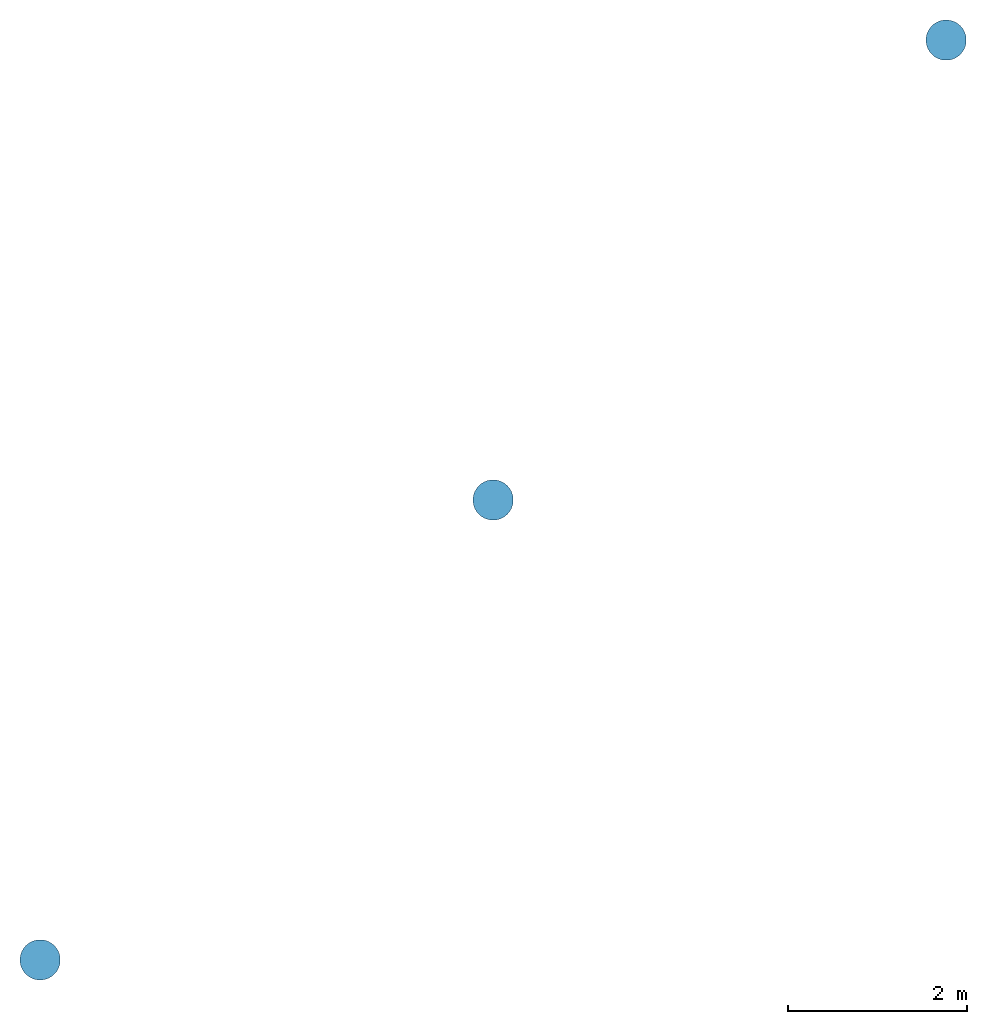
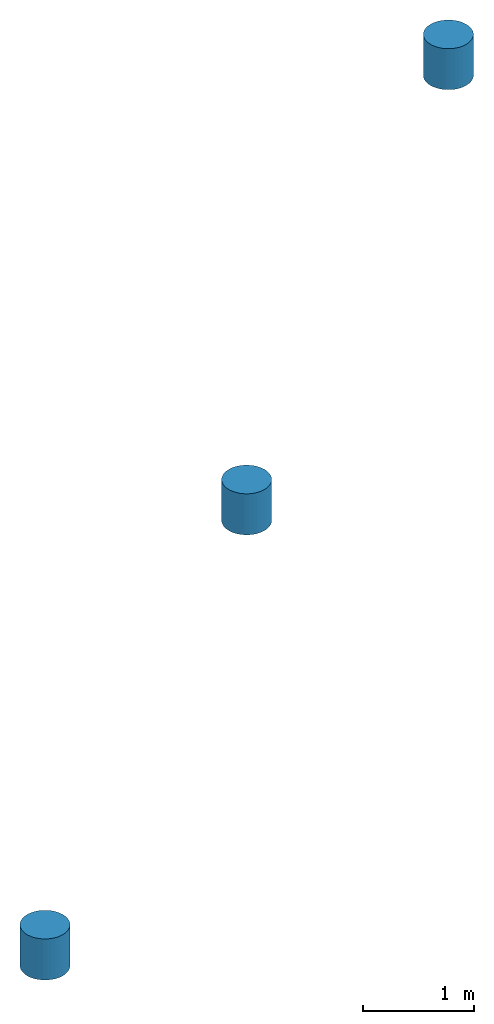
# One storey: 3 columns.
"""IFC2X3 building model written with IfcOpenShell, lengths in millimetres."""

from ifc_helpers import new_model, entity, si_unit, converted_unit, derived_unit, direction, frame, origin, origin_with_axes, place, context, subcontext, project, spatial, faceted_brep, material, type_object, element, save


model = new_model("IFC2X3")

# Units and contexts
model_context = context("Model", 3, precision=0.01, world=origin(), true_north=direction((6.12323399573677e-17, 1.0)))
plan_context = context("Plan", 3, precision=1e-05, world=origin_with_axes())
body_context = subcontext(model_context, "Body", "Model", "MODEL_VIEW")
ifc_project = project(units=[converted_unit("PLANEANGLEUNIT", "DEGREE", entity("IfcPositiveLengthMeasure", 0.0174532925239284), si_unit("PLANEANGLEUNIT", "RADIAN"), dimensions=[0, 0, 0, 0, 0, 0, 0]), si_unit("AREAUNIT", "SQUARE_METRE"), si_unit("LENGTHUNIT", "METRE", prefix="MILLI"), si_unit("MASSUNIT", "GRAM", prefix="KILO"), si_unit("POWERUNIT", "WATT"), si_unit("PRESSUREUNIT", "PASCAL", prefix="KILO"), si_unit("FORCEUNIT", "NEWTON", prefix="KILO"), si_unit("ELECTRICVOLTAGEUNIT", "VOLT"), si_unit("ELECTRICCURRENTUNIT", "AMPERE"), si_unit("THERMODYNAMICTEMPERATUREUNIT", "DEGREE_CELSIUS"), si_unit("TIMEUNIT", "SECOND"), si_unit("VOLUMEUNIT", "CUBIC_METRE"), derived_unit("LINEARVELOCITYUNIT", [(si_unit("LENGTHUNIT", "METRE"), 1), (si_unit("TIMEUNIT", "SECOND"), -1)]), derived_unit("VOLUMETRICFLOWRATEUNIT", [(si_unit("VOLUMEUNIT", "CUBIC_METRE"), 1), (si_unit("TIMEUNIT", "SECOND"), -1)]), derived_unit("THERMALTRANSMITTANCEUNIT", [(si_unit("POWERUNIT", "WATT"), 1), (si_unit("THERMODYNAMICTEMPERATUREUNIT", "KELVIN"), -1), (si_unit("AREAUNIT", "SQUARE_METRE"), -1)]), derived_unit("SOUNDPRESSUREUNIT", [(si_unit("PRESSUREUNIT", "PASCAL"), 1)])], contexts=[model_context, plan_context])

# Site, building, storey
site_placement = place(None, frame((0.0, -2.21771188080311e-09, 0.0), z_axis=(0.0, 0.0, 1.0), x_axis=(0.266093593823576, -0.963947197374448, 0.0)))
site = spatial("IfcSite", under=ifc_project, at=site_placement, Name="ENZV", CompositionType="ELEMENT")
building_placement = place(site_placement, origin_with_axes())
building = spatial("IfcBuilding", under=site, at=building_placement, Name="ZV001", CompositionType="ELEMENT")
storey_placement = place(building_placement, frame((0.0, 0.0, 5100.0), z_axis=(0.0, 0.0, 1.0), x_axis=(1.0, 0.0, 0.0)))
storey = spatial("IfcBuildingStorey", under=building, at=storey_placement, Name="H01", CompositionType="ELEMENT", Elevation=5100.0)

# Columns
ifc_material = material(Name="Betong Plasstøpt - B35")
column_type = type_object("IfcColumnType", Name="Søyle Betong Sirkulær:450", PredefinedType="COLUMN", material=ifc_material)
column_1_placement = place(storey_placement, frame((-53196.0165703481, 303156.456381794, -5100.0), z_axis=(0.0, 0.0, 1.0), x_axis=(1.0, 0.0, 0.0)))
element("IfcColumn", 1, at=column_1_placement, inside=storey, type_object=column_type, Name="Søyle Betong Sirkulær:450", ObjectType="Søyle Betong Sirkulær:450", context=body_context, shape_type="Brep", body=[
    faceted_brep([(224.999999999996, -4.08858901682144e-13, 8300.0), (221.581744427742, -39.070839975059, 8300.0), (221.581744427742, -39.070839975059, 8750.0), (224.999999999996, -4.08858901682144e-13, 8750.0), (221.581744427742, 39.0708399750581, 8300.0), (221.581744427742, 39.0708399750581, 8750.0), (211.430839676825, 76.9545322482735, 8300.0), (211.430839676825, 76.9545322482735, 8750.0), (194.855715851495, 112.499999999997, 8300.0), (194.855715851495, 112.499999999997, 8750.0), (172.359999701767, 144.627212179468, 8300.0), (172.359999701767, 144.627212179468, 8750.0), (144.627212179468, 172.359999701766, 8300.0), (144.627212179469, 172.359999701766, 8750.0), (112.499999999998, 194.855715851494, 8300.0), (112.499999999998, 194.855715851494, 8750.0), (76.9545322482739, 211.430839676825, 8300.0), (76.9545322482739, 211.430839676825, 8750.0), (39.0708399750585, 221.581744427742, 8300.0), (39.0708399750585, 221.581744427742, 8750.0), (-1.24380947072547e-14, 224.999999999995, 8300.0), (-1.24380947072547e-14, 224.999999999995, 8750.0), (-39.0708399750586, 221.581744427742, 8300.0), (-39.0708399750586, 221.581744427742, 8750.0), (-76.954532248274, 211.430839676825, 8300.0), (-76.954532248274, 211.430839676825, 8750.0), (-112.499999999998, 194.855715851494, 8300.0), (-112.499999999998, 194.855715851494, 8750.0), (-144.627212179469, 172.359999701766, 8300.0), (-144.627212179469, 172.359999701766, 8750.0), (-172.359999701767, 144.627212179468, 8300.0), (-172.359999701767, 144.627212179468, 8750.0), (-194.855715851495, 112.499999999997, 8300.0), (-194.855715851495, 112.499999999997, 8750.0), (-211.430839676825, 76.9545322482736, 8300.0), (-211.430839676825, 76.9545322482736, 8750.0), (-221.581744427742, 39.0708399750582, 8300.0), (-221.581744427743, 39.0708399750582, 8750.0), (-224.999999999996, -3.81304348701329e-13, 8300.0), (-224.999999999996, -3.81304348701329e-13, 8750.0), (-221.581744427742, -39.0708399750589, 8300.0), (-221.581744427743, -39.0708399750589, 8750.0), (-211.430839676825, -76.9545322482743, 8300.0), (-211.430839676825, -76.9545322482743, 8750.0), (-194.855715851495, -112.499999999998, 8300.0), (-194.855715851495, -112.499999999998, 8750.0), (-172.359999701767, -144.627212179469, 8300.0), (-172.359999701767, -144.627212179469, 8750.0), (-144.627212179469, -172.359999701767, 8300.0), (-144.627212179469, -172.359999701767, 8750.0), (-112.499999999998, -194.855715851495, 8300.0), (-112.499999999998, -194.855715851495, 8750.0), (-76.9545322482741, -211.430839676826, 8300.0), (-76.9545322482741, -211.430839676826, 8750.0), (-39.0708399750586, -221.581744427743, 8300.0), (-39.0708399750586, -221.581744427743, 8750.0), (-6.75472006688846e-14, -224.999999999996, 8300.0), (-6.75472006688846e-14, -224.999999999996, 8750.0), (39.0708399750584, -221.581744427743, 8300.0), (39.0708399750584, -221.581744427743, 8750.0), (76.9545322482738, -211.430839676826, 8300.0), (76.9545322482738, -211.430839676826, 8750.0), (112.499999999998, -194.855715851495, 8300.0), (112.499999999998, -194.855715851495, 8750.0), (144.627212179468, -172.359999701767, 8300.0), (144.627212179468, -172.359999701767, 8750.0), (172.359999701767, -144.627212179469, 8300.0), (172.359999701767, -144.627212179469, 8750.0), (194.855715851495, -112.499999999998, 8300.0), (194.855715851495, -112.499999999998, 8750.0), (211.430839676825, -76.9545322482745, 8300.0), (211.430839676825, -76.9545322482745, 8750.0)], [[[0, 1, 2, 3]], [[4, 0, 3, 5]], [[6, 4, 5, 7]], [[8, 6, 7, 9]], [[10, 8, 9, 11]], [[12, 10, 11, 13]], [[14, 12, 13, 15]], [[16, 14, 15, 17]], [[18, 16, 17, 19]], [[20, 18, 19, 21]], [[22, 20, 21, 23]], [[24, 22, 23, 25]], [[26, 24, 25, 27]], [[28, 26, 27, 29]], [[30, 28, 29, 31]], [[32, 30, 31, 33]], [[34, 32, 33, 35]], [[36, 34, 35, 37]], [[38, 36, 37, 39]], [[40, 38, 39, 41]], [[42, 40, 41, 43]], [[44, 42, 43, 45]], [[46, 44, 45, 47]], [[48, 46, 47, 49]], [[50, 48, 49, 51]], [[52, 50, 51, 53]], [[54, 52, 53, 55]], [[56, 54, 55, 57]], [[58, 56, 57, 59]], [[60, 58, 59, 61]], [[62, 60, 61, 63]], [[64, 62, 63, 65]], [[66, 64, 65, 67]], [[68, 66, 67, 69]], [[70, 68, 69, 71]], [[1, 70, 71, 2]], [[3, 2, 71, 69, 67, 65, 63, 61, 59, 57, 55, 53, 51, 49, 47, 45, 43, 41, 39, 37, 35, 33, 31, 29, 27, 25, 23, 21, 19, 17, 15, 13, 11, 9, 7, 5]], [[4, 6, 8, 10, 12, 14, 16, 18, 20, 22, 24, 26, 28, 30, 32, 34, 36, 38, 40, 42, 44, 46, 48, 50, 52, 54, 56, 58, 60, 62, 64, 66, 68, 70, 1, 0]]], orient=[[False], [False], [False], [False], [False], [False], [False], [False], [False], [False], [False], [False], [False], [False], [False], [False], [False], [False], [False], [False], [False], [False], [False], [False], [False], [False], [False], [False], [False], [False], [False], [False], [False], [False], [False], [False], [False], [False]]),
])
column_2_placement = place(storey_placement, frame((-45995.9898477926, 290685.705996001, -5100.0), z_axis=(0.0, 0.0, 1.0), x_axis=(1.0, 0.0, 0.0)))
element("IfcColumn", 2, at=column_2_placement, inside=storey, type_object=column_type, Name="Søyle Betong Sirkulær:450", ObjectType="Søyle Betong Sirkulær:450", context=body_context, shape_type="Brep", body=[
    faceted_brep([(224.999999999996, -4.08858901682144e-13, 8300.0), (221.581744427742, -39.070839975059, 8300.0), (221.581744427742, -39.070839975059, 8750.0), (224.999999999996, -4.08858901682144e-13, 8750.0), (221.581744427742, 39.0708399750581, 8300.0), (221.581744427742, 39.0708399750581, 8750.0), (211.430839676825, 76.9545322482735, 8300.0), (211.430839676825, 76.9545322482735, 8750.0), (194.855715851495, 112.499999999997, 8300.0), (194.855715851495, 112.499999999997, 8750.0), (172.359999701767, 144.627212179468, 8300.0), (172.359999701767, 144.627212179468, 8750.0), (144.627212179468, 172.359999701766, 8300.0), (144.627212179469, 172.359999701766, 8750.0), (112.499999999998, 194.855715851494, 8300.0), (112.499999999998, 194.855715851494, 8750.0), (76.9545322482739, 211.430839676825, 8300.0), (76.9545322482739, 211.430839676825, 8750.0), (39.0708399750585, 221.581744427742, 8300.0), (39.0708399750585, 221.581744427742, 8750.0), (-1.24380947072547e-14, 224.999999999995, 8300.0), (-1.24380947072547e-14, 224.999999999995, 8750.0), (-39.0708399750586, 221.581744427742, 8300.0), (-39.0708399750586, 221.581744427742, 8750.0), (-76.954532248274, 211.430839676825, 8300.0), (-76.954532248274, 211.430839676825, 8750.0), (-112.499999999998, 194.855715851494, 8300.0), (-112.499999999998, 194.855715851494, 8750.0), (-144.627212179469, 172.359999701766, 8300.0), (-144.627212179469, 172.359999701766, 8750.0), (-172.359999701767, 144.627212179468, 8300.0), (-172.359999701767, 144.627212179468, 8750.0), (-194.855715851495, 112.499999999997, 8300.0), (-194.855715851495, 112.499999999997, 8750.0), (-211.430839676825, 76.9545322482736, 8300.0), (-211.430839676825, 76.9545322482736, 8750.0), (-221.581744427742, 39.0708399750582, 8300.0), (-221.581744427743, 39.0708399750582, 8750.0), (-224.999999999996, -3.81304348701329e-13, 8300.0), (-224.999999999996, -3.81304348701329e-13, 8750.0), (-221.581744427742, -39.0708399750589, 8300.0), (-221.581744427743, -39.0708399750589, 8750.0), (-211.430839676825, -76.9545322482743, 8300.0), (-211.430839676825, -76.9545322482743, 8750.0), (-194.855715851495, -112.499999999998, 8300.0), (-194.855715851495, -112.499999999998, 8750.0), (-172.359999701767, -144.627212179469, 8300.0), (-172.359999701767, -144.627212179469, 8750.0), (-144.627212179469, -172.359999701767, 8300.0), (-144.627212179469, -172.359999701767, 8750.0), (-112.499999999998, -194.855715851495, 8300.0), (-112.499999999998, -194.855715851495, 8750.0), (-76.9545322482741, -211.430839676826, 8300.0), (-76.9545322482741, -211.430839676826, 8750.0), (-39.0708399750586, -221.581744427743, 8300.0), (-39.0708399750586, -221.581744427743, 8750.0), (-6.75472006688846e-14, -224.999999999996, 8300.0), (-6.75472006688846e-14, -224.999999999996, 8750.0), (39.0708399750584, -221.581744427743, 8300.0), (39.0708399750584, -221.581744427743, 8750.0), (76.9545322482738, -211.430839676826, 8300.0), (76.9545322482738, -211.430839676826, 8750.0), (112.499999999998, -194.855715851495, 8300.0), (112.499999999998, -194.855715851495, 8750.0), (144.627212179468, -172.359999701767, 8300.0), (144.627212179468, -172.359999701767, 8750.0), (172.359999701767, -144.627212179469, 8300.0), (172.359999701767, -144.627212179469, 8750.0), (194.855715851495, -112.499999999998, 8300.0), (194.855715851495, -112.499999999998, 8750.0), (211.430839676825, -76.9545322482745, 8300.0), (211.430839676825, -76.9545322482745, 8750.0)], [[[0, 1, 2, 3]], [[4, 0, 3, 5]], [[6, 4, 5, 7]], [[8, 6, 7, 9]], [[10, 8, 9, 11]], [[12, 10, 11, 13]], [[14, 12, 13, 15]], [[16, 14, 15, 17]], [[18, 16, 17, 19]], [[20, 18, 19, 21]], [[22, 20, 21, 23]], [[24, 22, 23, 25]], [[26, 24, 25, 27]], [[28, 26, 27, 29]], [[30, 28, 29, 31]], [[32, 30, 31, 33]], [[34, 32, 33, 35]], [[36, 34, 35, 37]], [[38, 36, 37, 39]], [[40, 38, 39, 41]], [[42, 40, 41, 43]], [[44, 42, 43, 45]], [[46, 44, 45, 47]], [[48, 46, 47, 49]], [[50, 48, 49, 51]], [[52, 50, 51, 53]], [[54, 52, 53, 55]], [[56, 54, 55, 57]], [[58, 56, 57, 59]], [[60, 58, 59, 61]], [[62, 60, 61, 63]], [[64, 62, 63, 65]], [[66, 64, 65, 67]], [[68, 66, 67, 69]], [[70, 68, 69, 71]], [[1, 70, 71, 2]], [[3, 2, 71, 69, 67, 65, 63, 61, 59, 57, 55, 53, 51, 49, 47, 45, 43, 41, 39, 37, 35, 33, 31, 29, 27, 25, 23, 21, 19, 17, 15, 13, 11, 9, 7, 5]], [[4, 6, 8, 10, 12, 14, 16, 18, 20, 22, 24, 26, 28, 30, 32, 34, 36, 38, 40, 42, 44, 46, 48, 50, 52, 54, 56, 58, 60, 62, 64, 66, 68, 70, 1, 0]]], orient=[[False], [False], [False], [False], [False], [False], [False], [False], [False], [False], [False], [False], [False], [False], [False], [False], [False], [False], [False], [False], [False], [False], [False], [False], [False], [False], [False], [False], [False], [False], [False], [False], [False], [False], [False], [False], [False], [False]]),
])
column_3_placement = place(storey_placement, frame((-49595.9987554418, 296921.083760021, -5100.0), z_axis=(0.0, 0.0, 1.0), x_axis=(1.0, 0.0, 0.0)))
element("IfcColumn", 3, at=column_3_placement, inside=storey, type_object=column_type, Name="Søyle Betong Sirkulær:450", ObjectType="Søyle Betong Sirkulær:450", context=body_context, shape_type="Brep", body=[
    faceted_brep([(224.999999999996, -4.08858901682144e-13, 8300.0), (221.581744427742, -39.070839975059, 8300.0), (221.581744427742, -39.070839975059, 8750.0), (224.999999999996, -4.08858901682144e-13, 8750.0), (221.581744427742, 39.0708399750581, 8300.0), (221.581744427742, 39.0708399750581, 8750.0), (211.430839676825, 76.9545322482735, 8300.0), (211.430839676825, 76.9545322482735, 8750.0), (194.855715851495, 112.499999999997, 8300.0), (194.855715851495, 112.499999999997, 8750.0), (172.359999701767, 144.627212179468, 8300.0), (172.359999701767, 144.627212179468, 8750.0), (144.627212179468, 172.359999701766, 8300.0), (144.627212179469, 172.359999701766, 8750.0), (112.499999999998, 194.855715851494, 8300.0), (112.499999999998, 194.855715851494, 8750.0), (76.9545322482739, 211.430839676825, 8300.0), (76.9545322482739, 211.430839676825, 8750.0), (39.0708399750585, 221.581744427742, 8300.0), (39.0708399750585, 221.581744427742, 8750.0), (-1.24380947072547e-14, 224.999999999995, 8300.0), (-1.24380947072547e-14, 224.999999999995, 8750.0), (-39.0708399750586, 221.581744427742, 8300.0), (-39.0708399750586, 221.581744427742, 8750.0), (-76.954532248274, 211.430839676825, 8300.0), (-76.954532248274, 211.430839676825, 8750.0), (-112.499999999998, 194.855715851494, 8300.0), (-112.499999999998, 194.855715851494, 8750.0), (-144.627212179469, 172.359999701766, 8300.0), (-144.627212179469, 172.359999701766, 8750.0), (-172.359999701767, 144.627212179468, 8300.0), (-172.359999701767, 144.627212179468, 8750.0), (-194.855715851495, 112.499999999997, 8300.0), (-194.855715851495, 112.499999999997, 8750.0), (-211.430839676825, 76.9545322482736, 8300.0), (-211.430839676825, 76.9545322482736, 8750.0), (-221.581744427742, 39.0708399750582, 8300.0), (-221.581744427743, 39.0708399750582, 8750.0), (-224.999999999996, -3.81304348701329e-13, 8300.0), (-224.999999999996, -3.81304348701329e-13, 8750.0), (-221.581744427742, -39.0708399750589, 8300.0), (-221.581744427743, -39.0708399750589, 8750.0), (-211.430839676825, -76.9545322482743, 8300.0), (-211.430839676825, -76.9545322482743, 8750.0), (-194.855715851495, -112.499999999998, 8300.0), (-194.855715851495, -112.499999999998, 8750.0), (-172.359999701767, -144.627212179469, 8300.0), (-172.359999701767, -144.627212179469, 8750.0), (-144.627212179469, -172.359999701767, 8300.0), (-144.627212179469, -172.359999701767, 8750.0), (-112.499999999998, -194.855715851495, 8300.0), (-112.499999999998, -194.855715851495, 8750.0), (-76.9545322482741, -211.430839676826, 8300.0), (-76.9545322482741, -211.430839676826, 8750.0), (-39.0708399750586, -221.581744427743, 8300.0), (-39.0708399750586, -221.581744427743, 8750.0), (-6.75472006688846e-14, -224.999999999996, 8300.0), (-6.75472006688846e-14, -224.999999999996, 8750.0), (39.0708399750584, -221.581744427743, 8300.0), (39.0708399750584, -221.581744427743, 8750.0), (76.9545322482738, -211.430839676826, 8300.0), (76.9545322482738, -211.430839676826, 8750.0), (112.499999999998, -194.855715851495, 8300.0), (112.499999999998, -194.855715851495, 8750.0), (144.627212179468, -172.359999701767, 8300.0), (144.627212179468, -172.359999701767, 8750.0), (172.359999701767, -144.627212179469, 8300.0), (172.359999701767, -144.627212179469, 8750.0), (194.855715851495, -112.499999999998, 8300.0), (194.855715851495, -112.499999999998, 8750.0), (211.430839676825, -76.9545322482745, 8300.0), (211.430839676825, -76.9545322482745, 8750.0)], [[[0, 1, 2, 3]], [[4, 0, 3, 5]], [[6, 4, 5, 7]], [[8, 6, 7, 9]], [[10, 8, 9, 11]], [[12, 10, 11, 13]], [[14, 12, 13, 15]], [[16, 14, 15, 17]], [[18, 16, 17, 19]], [[20, 18, 19, 21]], [[22, 20, 21, 23]], [[24, 22, 23, 25]], [[26, 24, 25, 27]], [[28, 26, 27, 29]], [[30, 28, 29, 31]], [[32, 30, 31, 33]], [[34, 32, 33, 35]], [[36, 34, 35, 37]], [[38, 36, 37, 39]], [[40, 38, 39, 41]], [[42, 40, 41, 43]], [[44, 42, 43, 45]], [[46, 44, 45, 47]], [[48, 46, 47, 49]], [[50, 48, 49, 51]], [[52, 50, 51, 53]], [[54, 52, 53, 55]], [[56, 54, 55, 57]], [[58, 56, 57, 59]], [[60, 58, 59, 61]], [[62, 60, 61, 63]], [[64, 62, 63, 65]], [[66, 64, 65, 67]], [[68, 66, 67, 69]], [[70, 68, 69, 71]], [[1, 70, 71, 2]], [[3, 2, 71, 69, 67, 65, 63, 61, 59, 57, 55, 53, 51, 49, 47, 45, 43, 41, 39, 37, 35, 33, 31, 29, 27, 25, 23, 21, 19, 17, 15, 13, 11, 9, 7, 5]], [[4, 6, 8, 10, 12, 14, 16, 18, 20, 22, 24, 26, 28, 30, 32, 34, 36, 38, 40, 42, 44, 46, 48, 50, 52, 54, 56, 58, 60, 62, 64, 66, 68, 70, 1, 0]]], orient=[[False], [False], [False], [False], [False], [False], [False], [False], [False], [False], [False], [False], [False], [False], [False], [False], [False], [False], [False], [False], [False], [False], [False], [False], [False], [False], [False], [False], [False], [False], [False], [False], [False], [False], [False], [False], [False], [False]]),
])

save(model, "model.ifc")
